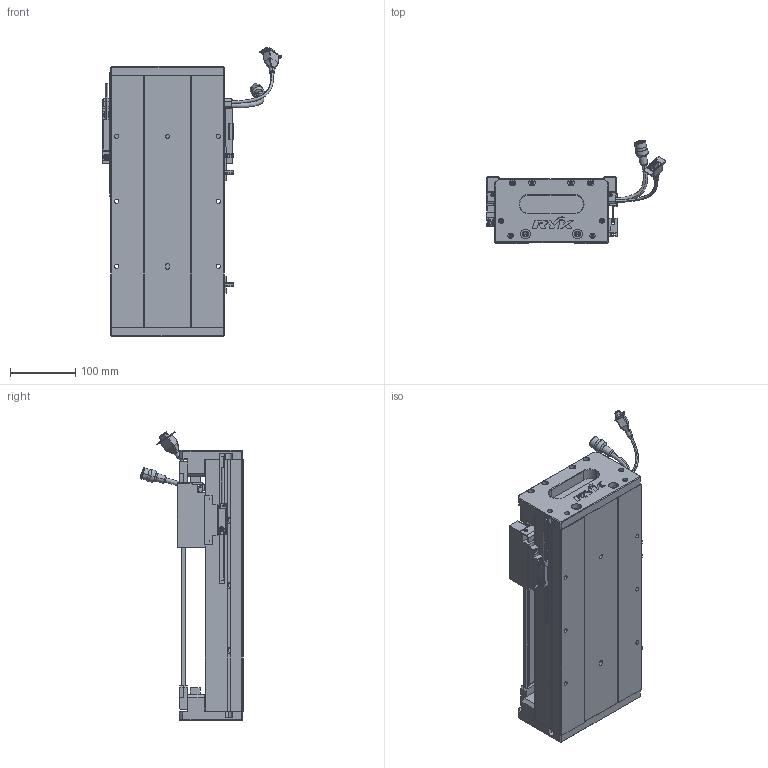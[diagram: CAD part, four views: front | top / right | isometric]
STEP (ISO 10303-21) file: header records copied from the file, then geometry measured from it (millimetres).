
FILE_DESCRIPTION (( 'STEP AP203' ), '1' );
FILE_NAME ('Z1-RY170D-1-L500-B-K.SLDASM_0200.step', '2021-05-17T08:51:14', ( '盈信电脑' ), ( '东莞市道滘镇水果街19号' ), 'SwSTEP 2.0', 'SolidWorks 2016', '' );
FILE_SCHEMA (( 'CONFIG_CONTROL_DESIGN' ));
Length unit declared in the file: millimetre
Products named in the file (36): LABEL-Part-1; SCALE; Z-RY170詩湍狟揤裔; Z1-RY170-L500耀郪菁釱_0200; 覜茼ん672; HOLDER0; SCALE-Part-2; PSLH080_PSLF2; Z1-RY170臏賑輸(21遴); SCREW-M1.7; RY170直线电机感应器672光电感应片; 080黍杅芛假蚾釱21遴; SCREW-M1.6-1; HARNESS; COVER; SCREW-M1.6; 140雄赽晤鎢ん堤盄; LABEL; 170-Z-臏賑輸盄裔(21遴); Z1-RY170-L500詩湍145mm遵_0200; 榋妏寠巭燃_暯_M2_2; HARNESS-Part-2; Z-RY170詩湍奻揤裔; HARNESS-Part-1; SCREW-M1.6-3; Z-170詩湍傷裔啣; SEAL; SCREW-M1.6-2; PBU_SHEET; SCREW-M1.7-1; 140蚥薯蝶輸; Z1-RY170D-1-L500-B-K.SLDASM_0200; SCALE-Part-1; COVER-Part-1; SHIELDPLATE; SEAL-Part-1
Assembly tree (41 placements, depth 4):
  Z1-RY170D-1-L500-B-K.SLDASM_0200
    Z1-RY170-L500耀郪菁釱_0200
    RY170直线电机感应器672光电感应片
    Z1-RY170臏賑輸(21遴)
    覜茼ん672  x3
    PSLH080_PSLF2
      SCALE
        SCALE-Part-1
        SCALE-Part-2
      HARNESS
        HARNESS-Part-1
        HARNESS-Part-2
      LABEL
        LABEL-Part-1
      COVER
        COVER-Part-1
      SEAL
        SEAL-Part-1
      榋妏寠巭燃_暯_M2_2
      SHIELDPLATE
      SCREW-M1.7
      SCREW-M1.7-1
      PBU_SHEET
      SCREW-M1.6
      SCREW-M1.6-1
      SCREW-M1.6-2
      SCREW-M1.6-3
      HOLDER0
    080黍杅芛假蚾釱21遴
    Z1-RY170-L500詩湍145mm遵_0200
    Z-170詩湍傷裔啣  x2
    Z-RY170詩湍奻揤裔  x2
    Z-RY170詩湍狟揤裔  x2
    140蚥薯蝶輸  x2
    170-Z-臏賑輸盄裔(21遴)
    140雄赽晤鎢ん堤盄
Bounding box: 275.34 x 158.11 x 443.73 mm (x, y, z)
Volume: 3010369 mm3; surface area: 733255.3 mm2
Topology: 36 solids, 36 shells, 2480 faces, 6435 edges, 4063 vertices
Faces by surface type: plane 1068, cylinder 1018, cone 272, torus 69, bspline 53
Entity records: 67883 total; most frequent: CARTESIAN_POINT 15636, DIRECTION 10261, ORIENTED_EDGE 9898, EDGE_CURVE 4949, AXIS2_PLACEMENT_3D 3714, VERTEX_POINT 3181, VECTOR 2833, LINE 2833
